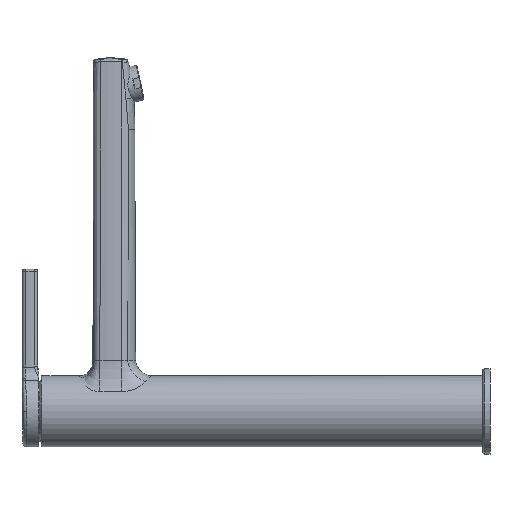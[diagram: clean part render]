
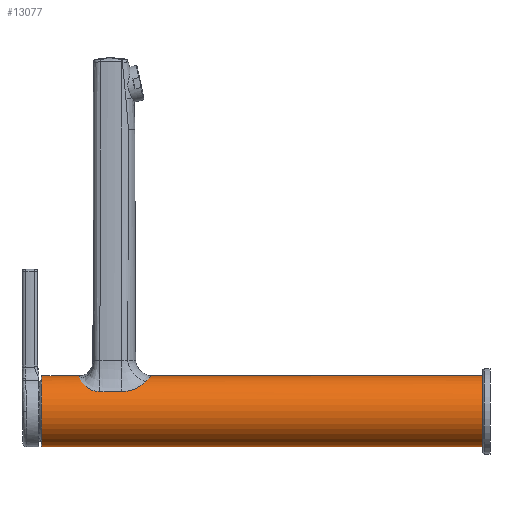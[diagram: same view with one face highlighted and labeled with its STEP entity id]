
A CAD part, left-side view. The second image highlights one B-rep face of the part: STEP entity #13077.
In plain terms, the highlighted cylindrical face has radius 20 mm (diameter 40 mm), a partial arc.
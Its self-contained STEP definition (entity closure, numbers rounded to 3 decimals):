
#100=CARTESIAN_POINT('',(0.,0.,0.));
#101=DIRECTION('',(0.,-1.,0.));
#102=DIRECTION('',(0.,0.,1.));
#103=AXIS2_PLACEMENT_3D('',#100,#101,#102);
#105=DIRECTION('',(0.,-1.,0.));
#106=VECTOR('',#105,248.2);
#107=CARTESIAN_POINT('',(0.,248.2,-20.));
#108=LINE('',#107,#106);
#109=CARTESIAN_POINT('',(0.,248.2,0.));
#110=DIRECTION('',(0.,-1.,0.));
#111=DIRECTION('',(0.,0.,1.));
#112=AXIS2_PLACEMENT_3D('',#109,#110,#111);
#114=DIRECTION('',(0.,-1.,0.));
#115=VECTOR('',#114,20.7);
#116=CARTESIAN_POINT('',(0.,248.2,20.));
#117=LINE('',#116,#115);
#118=DIRECTION('',(0.,1.,0.));
#119=VECTOR('',#118,186.5);
#120=CARTESIAN_POINT('',(0.,0.,20.));
#121=LINE('',#120,#119);
#137=CARTESIAN_POINT('',(-7.093,226.945,18.7));
#138=CARTESIAN_POINT('',(-4.833,227.311,19.557));
#139=CARTESIAN_POINT('',(-2.417,227.5,20.));
#140=CARTESIAN_POINT('',(0.,227.5,20.));
#268=CARTESIAN_POINT('',(0.,227.5,20.));
#808=CARTESIAN_POINT('',(-11.007,189.802,16.698));
#809=CARTESIAN_POINT('',(-10.504,189.469,17.031));
#810=CARTESIAN_POINT('',(-9.516,188.884,17.617));
#811=CARTESIAN_POINT('',(-7.648,187.973,18.527));
#812=CARTESIAN_POINT('',(-5.494,187.21,19.29));
#813=CARTESIAN_POINT('',(-2.893,186.646,19.854));
#814=CARTESIAN_POINT('',(-0.971,186.5,20.));
#815=CARTESIAN_POINT('',(0.,186.5,
20.));
#858=CARTESIAN_POINT('',(-11.007,189.802,16.698));
#859=CARTESIAN_POINT('',(-11.341,190.022,16.478));
#860=CARTESIAN_POINT('',(-12.056,190.543,15.978));
#861=CARTESIAN_POINT('',(-13.181,191.626,15.066));
#862=CARTESIAN_POINT('',(-14.248,193.05,14.058));
#863=CARTESIAN_POINT('',(-15.16,194.8,13.065));
#864=CARTESIAN_POINT('',(-15.854,196.813,12.206));
#865=CARTESIAN_POINT('',(-16.47,199.7,11.359));
#866=CARTESIAN_POINT('',(-16.616,201.9,11.131));
#867=CARTESIAN_POINT('',(-16.615,203.269,11.133));
#1040=DIRECTION('',(-0.001,-1.,-0.002));
#1041=VECTOR('',#1040,12.272);
#1042=CARTESIAN_POINT('',(-16.601,215.54,11.154));
#1043=LINE('',#1042,#1041);
#1061=CARTESIAN_POINT('',(-7.093,226.945,18.7));
#1062=CARTESIAN_POINT('',(-7.722,226.843,18.461));
#1063=CARTESIAN_POINT('',(-8.908,226.606,17.939));
#1064=CARTESIAN_POINT('',(-10.467,226.121,17.07));
#1065=CARTESIAN_POINT('',(-11.801,225.514,16.171));
#1066=CARTESIAN_POINT('',(-12.926,224.791,15.282));
#1067=CARTESIAN_POINT('',(-13.864,223.956,14.431));
#1068=CARTESIAN_POINT('',(-14.636,223.015,13.643));
#1069=CARTESIAN_POINT('',(-15.264,221.965,12.933));
#1070=CARTESIAN_POINT('',(-15.766,220.807,12.312));
#1071=CARTESIAN_POINT('',(-16.148,219.556,11.804));
#1072=CARTESIAN_POINT('',(-16.411,218.261,11.433));
#1073=CARTESIAN_POINT('',(-16.567,216.885,11.205));
#1074=CARTESIAN_POINT('',(-16.6,215.989,11.155));
#1075=CARTESIAN_POINT('',(-16.601,215.54,11.154));
#12723=CARTESIAN_POINT('',(0.,248.2,-20.));
#12724=CARTESIAN_POINT('',(0.,248.2,20.));
#12725=VERTEX_POINT('',#12723);
#12726=VERTEX_POINT('',#12724);
#12773=VERTEX_POINT('',#268);
#12775=VERTEX_POINT('',#137);
#12776=VERTEX_POINT('',#858);
#12777=VERTEX_POINT('',#867);
#12794=VERTEX_POINT('',#1075);
#12798=VERTEX_POINT('',#815);
#12864=CARTESIAN_POINT('',(0.,0.,-20.));
#12865=CARTESIAN_POINT('',(0.,0.,20.));
#12866=VERTEX_POINT('',#12864);
#12867=VERTEX_POINT('',#12865);
#13054=CARTESIAN_POINT('',(0.,260.925,0.));
#13055=DIRECTION('',(0.,-1.,0.));
#13056=DIRECTION('',(0.,0.,-1.));
#13057=AXIS2_PLACEMENT_3D('',#13054,#13055,#13056);
#13058=CYLINDRICAL_SURFACE('',#13057,20.);
#13059=ORIENTED_EDGE('',*,*,#12983,.T.);
#13060=ORIENTED_EDGE('',*,*,#12966,.F.);
#13062=ORIENTED_EDGE('',*,*,#13061,.F.);
#13063=ORIENTED_EDGE('',*,*,#12963,.T.);
#13065=ORIENTED_EDGE('',*,*,#13064,.F.);
#13067=ORIENTED_EDGE('',*,*,#13066,.T.);
#13069=ORIENTED_EDGE('',*,*,#13068,.T.);
#13071=ORIENTED_EDGE('',*,*,#13070,.F.);
#13073=ORIENTED_EDGE('',*,*,#13072,.T.);
#13074=ORIENTED_EDGE('',*,*,#12951,.F.);
#13075=EDGE_LOOP('',(#13059,#13060,#13062,#13063,#13065,#13067,#13069,#13071,
#13073,#13074));
#13076=FACE_OUTER_BOUND('',#13075,.F.);
#13077=ADVANCED_FACE('',(#13076),#13058,.T.);
#104=CIRCLE('',#103,20.);
#113=CIRCLE('',#112,20.);
#141=B_SPLINE_CURVE_WITH_KNOTS('',3,(#137,#138,#139,#140),.UNSPECIFIED.,.F.,.F.,
(4,4),(0.,1.),.UNSPECIFIED.);
#816=B_SPLINE_CURVE_WITH_KNOTS('',3,(#808,#809,#810,#811,#812,#813,#814,#815),
.UNSPECIFIED.,.F.,.F.,(4,1,1,1,1,4),(0.,0.125,0.25,
0.5,0.75,1.),.UNSPECIFIED.);
#868=B_SPLINE_CURVE_WITH_KNOTS('',3,(#858,#859,#860,#861,#862,#863,#864,#865,
#866,#867),.UNSPECIFIED.,.F.,.F.,(4,1,1,1,1,1,1,4),(0.,0.125,
0.25,0.375,0.5,0.625,
0.75,1.),.UNSPECIFIED.);
#1076=B_SPLINE_CURVE_WITH_KNOTS('',3,(#1061,#1062,#1063,#1064,#1065,#1066,#1067,
#1068,#1069,#1070,#1071,#1072,#1073,#1074,#1075),.UNSPECIFIED.,.F.,.F.,(4,1,1,1,
1,1,1,1,1,1,1,1,4),(0.,0.083,0.167,0.25,
0.333,0.417,0.5,0.583,0.667,
0.75,0.833,0.917,1.),.UNSPECIFIED.);
#12951=EDGE_CURVE('',#12867,#12798,#121,.T.);
#12963=EDGE_CURVE('',#12726,#12773,#117,.T.);
#12966=EDGE_CURVE('',#12725,#12866,#108,.T.);
#12983=EDGE_CURVE('',#12867,#12866,#104,.T.);
#13061=EDGE_CURVE('',#12726,#12725,#113,.T.);
#13064=EDGE_CURVE('',#12775,#12773,#141,.T.);
#13066=EDGE_CURVE('',#12775,#12794,#1076,.T.);
#13068=EDGE_CURVE('',#12794,#12777,#1043,.T.);
#13070=EDGE_CURVE('',#12776,#12777,#868,.T.);
#13072=EDGE_CURVE('',#12776,#12798,#816,.T.);
